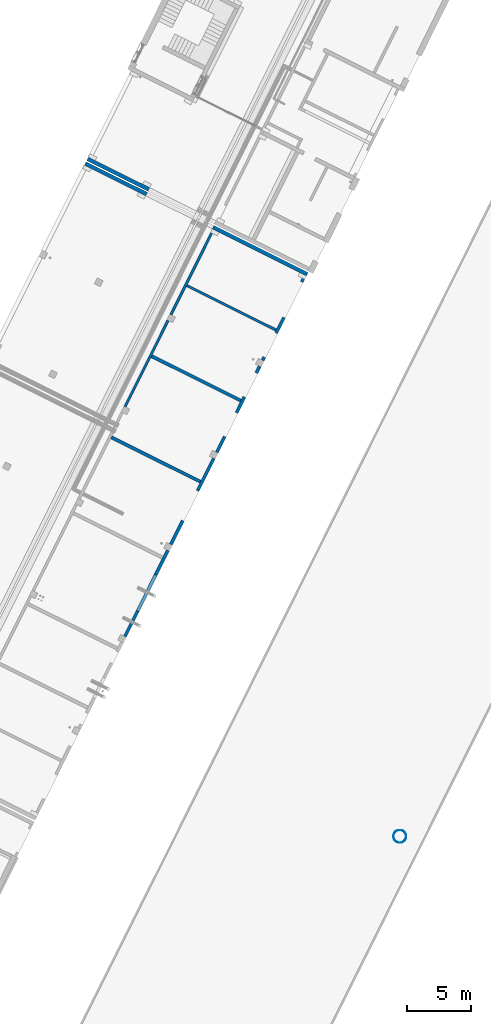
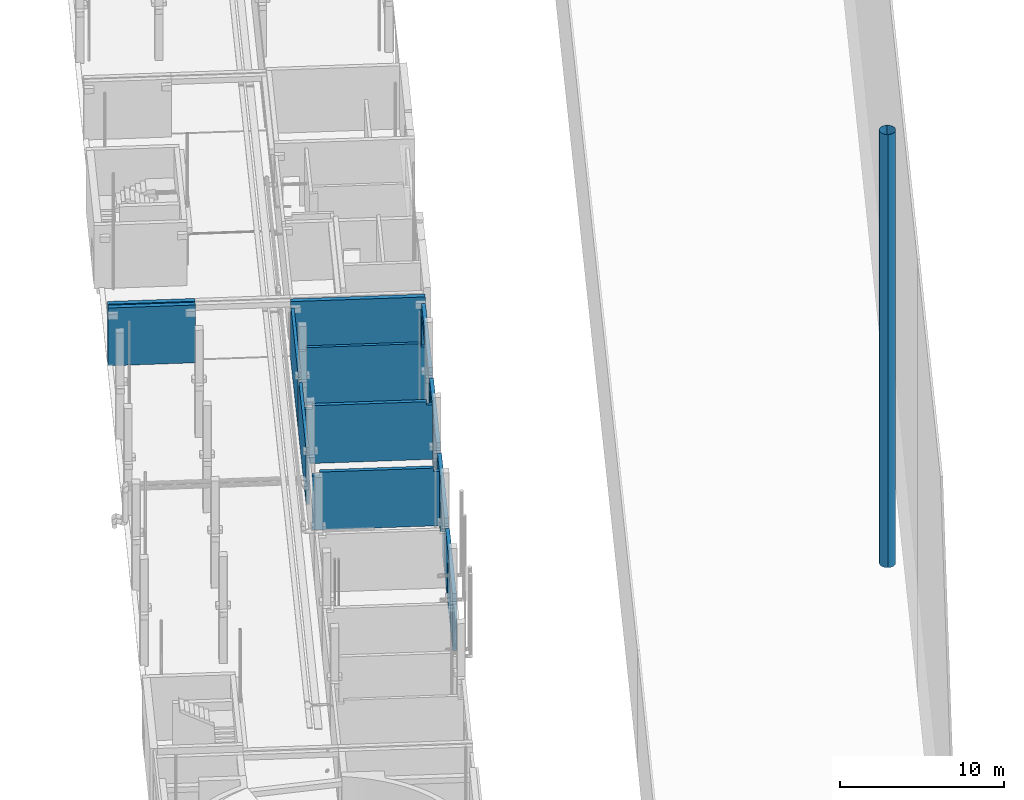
# One storey, part 11 of 91: 14 walls, 18 openings.
"""IFC2X3 building model written with IfcOpenShell, lengths in metres."""

from ifc_helpers import new_model, entity, si_unit, converted_unit, derived_unit, direction, frame, frame_2d, origin, origin_2d_with_axis, place, context, subcontext, project, spatial, polyline, circle_curve, parameter, trimmed, segment, composite_curve, rectangle, circle, outline, extrude, clip, halfspace, bounded_halfspace, material, layer, layer_set, layer_usage, type_object, element, save


model = new_model("IFC2X3")

# Units and contexts
model_context = context("Model", 3, precision=1e-05, world=origin(), true_north=direction((0.894925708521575, 0.446215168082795)))
context_of_model = context(None, 3, precision=1e-05, world=origin(), true_north=direction((0.894925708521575, 0.446215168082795)))
body_context = subcontext(model_context, "Body", "Model", "MODEL_VIEW")
ifc_project = project(units=[si_unit("LENGTHUNIT", "METRE"), si_unit("AREAUNIT", "SQUARE_METRE"), si_unit("VOLUMEUNIT", "CUBIC_METRE"), converted_unit("PLANEANGLEUNIT", "DEGREE", entity("IfcRatioMeasure", 0.0174532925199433), si_unit("PLANEANGLEUNIT", "RADIAN"), dimensions=[0, 0, 0, 0, 0, 0, 0]), si_unit("MASSUNIT", "GRAM", prefix="KILO"), si_unit("TIMEUNIT", "SECOND"), si_unit("FREQUENCYUNIT", "HERTZ"), si_unit("THERMODYNAMICTEMPERATUREUNIT", "DEGREE_CELSIUS"), derived_unit("THERMALTRANSMITTANCEUNIT", [(si_unit("MASSUNIT", "GRAM", prefix="KILO"), 1), (si_unit("THERMODYNAMICTEMPERATUREUNIT", "KELVIN"), -1), (si_unit("TIMEUNIT", "SECOND"), -3)]), derived_unit("VOLUMETRICFLOWRATEUNIT", [(si_unit("LENGTHUNIT", "METRE"), 3), (si_unit("TIMEUNIT", "SECOND"), -1)]), si_unit("ELECTRICCURRENTUNIT", "AMPERE"), si_unit("ELECTRICVOLTAGEUNIT", "VOLT"), si_unit("POWERUNIT", "WATT"), si_unit("FORCEUNIT", "NEWTON", prefix="KILO"), si_unit("ILLUMINANCEUNIT", "LUX"), si_unit("LUMINOUSFLUXUNIT", "LUMEN"), si_unit("LUMINOUSINTENSITYUNIT", "CANDELA"), si_unit("PRESSUREUNIT", "PASCAL")], contexts=[model_context, context_of_model])

# Site, building, storey
site_placement = place(None, frame((218.228324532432, 584.720189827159, 0.0), z_axis=(0.0, 0.0, 1.0), x_axis=(0.446215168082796, 0.894925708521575, 0.0)))
site = spatial("IfcSite", under=ifc_project, at=site_placement, Name="Default", CompositionType="ELEMENT")
building_placement = place(site_placement, origin())
building = spatial("IfcBuilding", under=site, at=building_placement, CompositionType="ELEMENT")
storey_placement = place(building_placement, origin())
storey = spatial("IfcBuildingStorey", under=building, at=storey_placement, Name="0 - Piano Terra", CompositionType="ELEMENT", Elevation=0.0)

# Wall, openings
ifc_material_1 = material(Name="Sabbia e Calcestruzzo")
ifc_layer_1 = layer(ifc_material_1, 0.2)
ifc_layer_set_1 = layer_set([ifc_layer_1], Name="Muro di base:Blocchetti - 20 cm")
ifc_layer_usage_1 = layer_usage(ifc_layer_set_1, "AXIS2", "NEGATIVE", 0.1)
wall_type_1 = type_object("IfcWallType", Name="Muro di base:Blocchetti - 20 cm", PredefinedType="STANDARD", material=ifc_layer_set_1)
wall_1_placement = place(storey_placement, frame((-28.5922204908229, -5.10107899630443, 0.0)))
wall_1 = element("IfcWallStandardCase", 1, at=wall_1_placement, inside=storey, type_object=wall_type_1, material=ifc_layer_usage_1, Name="Muro di base:Blocchetti - 20 cm", ObjectType="Muro di base:Blocchetti - 20 cm", context=body_context, shape_type="Clipping", body=[
    clip(clip(extrude(rectangle(XDim=7.50359922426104, YDim=0.2, at=frame_2d((3.75179961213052, 0.0), x_axis=(-1.0, 0.0))), origin(), (0.0, 0.0, 1.0), 4.03), halfspace(frame((7.50359922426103, 0.0, 3.63000000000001), z_axis=(0.79999999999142, 0.0, 0.60000000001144), x_axis=(0.0, 1.0, 0.0)), False)), halfspace(frame((0.299999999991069, 0.0, 4.03), z_axis=(-0.800000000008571, 0.0, 0.599999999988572), x_axis=(0.0, 1.0, 0.0)), False)),
])
opening_1_placement = place(wall_1_placement, origin())
element("IfcOpeningElement", 2, at=opening_1_placement, cuts=wall_1, Name="Muro di base:Blocchetti - 20 cm", ObjectType="Opening", context=body_context, shape_type="SweptSolid", body=[
    extrude(outline(polyline([(-0.226666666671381, -0.0800000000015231), (0.273333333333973, -0.080000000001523), (-0.046666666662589, 0.160000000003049), (-0.226666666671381, -0.0800000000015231)])), frame((7.30359922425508, 0.100000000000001, 3.76333333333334), z_axis=(0.0, -1.0, 0.0), x_axis=(-0.60000000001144, 0.0, 0.79999999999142)), (0.0, 0.0, 1.0), 0.2),
])
opening_2_placement = place(wall_1_placement, origin())
element("IfcOpeningElement", 3, at=opening_2_placement, cuts=wall_1, Name="Muro di base:Blocchetti - 20 cm", ObjectType="Opening", context=body_context, shape_type="SweptSolid", body=[
    extrude(outline(polyline([(-0.273333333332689, -0.0799999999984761), (0.22666666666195, -0.0799999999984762), (0.0466666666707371, 0.159999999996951), (-0.273333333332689, -0.0799999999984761)])), frame((0.199999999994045, 0.1, 3.76333333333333), z_axis=(0.0, -1.0, 0.0), x_axis=(-0.599999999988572, 0.0, -0.800000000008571)), (0.0, 0.0, 1.0), 0.2),
])

# Wall, opening
ifc_layer_usage_2 = layer_usage(ifc_layer_set_1, "AXIS2", "NEGATIVE", 0.1)
wall_2_placement = place(storey_placement, frame((-20.5886212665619, -5.10107899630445, 0.0)))
wall_2 = element("IfcWallStandardCase", 4, at=wall_2_placement, inside=storey, type_object=wall_type_1, material=ifc_layer_usage_2, Name="Muro di base:Blocchetti - 20 cm", ObjectType="Muro di base:Blocchetti - 20 cm", context=body_context, shape_type="Clipping", body=[
    clip(clip(clip(extrude(rectangle(XDim=7.4042495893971, YDim=0.2, at=frame_2d((3.70212479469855, 0.0), x_axis=(-1.0, 0.0))), origin(), (0.0, 0.0, 1.0), 4.03), bounded_halfspace(frame((7.10424958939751, 0.0999999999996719, 3.63), z_axis=(0.0, 0.0, -1.0), x_axis=(1.0, 0.0, 0.0)), True, frame((7.10424958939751, 0.0999999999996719, 3.63), z_axis=(0.0, 0.0, -1.0), x_axis=(1.0, 0.0, 0.0)), polyline([(0.0, 0.0), (0.299999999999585, 0.0), (0.299999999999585, 0.199999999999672), (0.0, 0.199999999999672), (0.0, 0.0)]))), bounded_halfspace(frame((7.10424958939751, -0.1, 3.63), z_axis=(-1.0, 0.0, 0.0), x_axis=(0.0, 0.0, -1.0)), True, frame((7.10424958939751, -0.1, 3.63), z_axis=(-1.0, 0.0, 0.0), x_axis=(0.0, 0.0, -1.0)), polyline([(0.0, 0.0), (-0.4, 0.0), (-0.4, -0.2), (0.0, -0.199999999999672), (0.0, 0.0)]))), halfspace(frame((0.299999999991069, 0.0, 4.03), z_axis=(-0.800000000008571, 0.0, 0.599999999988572), x_axis=(0.0, 1.0, 0.0)), False)),
])
opening_3_placement = place(wall_2_placement, origin())
element("IfcOpeningElement", 5, at=opening_3_placement, cuts=wall_2, Name="Muro di base:Blocchetti - 20 cm", ObjectType="Opening", context=body_context, shape_type="SweptSolid", body=[
    extrude(outline(polyline([(-0.273333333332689, -0.0799999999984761), (0.22666666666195, -0.0799999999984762), (0.0466666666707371, 0.159999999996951), (-0.273333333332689, -0.0799999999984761)])), frame((0.199999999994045, 0.1, 3.76333333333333), z_axis=(0.0, -1.0, 0.0), x_axis=(-0.599999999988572, 0.0, -0.800000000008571)), (0.0, 0.0, 1.0), 0.2),
])

# Wall
ifc_layer_usage_3 = layer_usage(ifc_layer_set_1, "AXIS2", "NEGATIVE", 0.1)
wall_3_placement = place(storey_placement, frame((-18.0117707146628, -12.9510789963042, 0.0), z_axis=(0.0, 0.0, 1.0), x_axis=(0.0, 1.0, 0.0)))
element("IfcWallStandardCase", 6, at=wall_3_placement, inside=storey, type_object=wall_type_1, material=ifc_layer_usage_3, Name="Muro di base:Blocchetti - 20 cm", ObjectType="Muro di base:Blocchetti - 20 cm", context=body_context, shape_type="Clipping", body=[
    clip(clip(clip(clip(extrude(rectangle(XDim=7.74999999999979, YDim=0.199999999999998, at=frame_2d((3.87499999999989, 0.0), x_axis=(-1.0, 0.0))), origin(), (0.0, 0.0, 1.0), 4.29), bounded_halfspace(frame((7.29999999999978, -0.0999999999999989, 4.03), z_axis=(-1.0, 0.0, 0.0), x_axis=(0.0, 1.0, 0.0)), True, frame((7.29999999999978, -0.0999999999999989, 4.03), z_axis=(-1.0, 0.0, 0.0), x_axis=(0.0, 1.0, 0.0)), polyline([(0.0, 0.0), (0.0, -0.260000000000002), (0.199999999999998, -0.260000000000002), (0.199999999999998, 0.0), (0.0, 0.0)]))), bounded_halfspace(frame((7.29999999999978, 0.0999999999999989, 4.03), z_axis=(0.0, 0.0, -1.0), x_axis=(0.0, 1.0, 0.0)), True, frame((7.29999999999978, 0.0999999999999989, 4.03), z_axis=(0.0, 0.0, -1.0), x_axis=(0.0, 1.0, 0.0)), polyline([(0.0, 0.0), (0.0, 0.450000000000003), (-0.199999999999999, 0.450000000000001), (-0.199999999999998, 0.0), (0.0, 0.0)]))), bounded_halfspace(frame((0.349999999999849, 0.100000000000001, 4.03), z_axis=(-1.0, 0.0, 0.0), x_axis=(0.0, 1.0, 0.0)), False, frame((0.349999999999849, 0.100000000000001, 4.03), z_axis=(-1.0, 0.0, 0.0), x_axis=(0.0, 1.0, 0.0)), polyline([(0.0, 0.0), (-0.2, 0.0), (-0.200000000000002, -0.260000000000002), (0.0, -0.260000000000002), (0.0, 0.0)]))), bounded_halfspace(frame((0.349999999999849, -0.0999999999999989, 4.03), z_axis=(0.0, 0.0, 1.0), x_axis=(0.0, 1.0, 0.0)), False, frame((0.349999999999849, -0.0999999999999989, 4.03), z_axis=(0.0, 0.0, 1.0), x_axis=(0.0, 1.0, 0.0)), polyline([(0.0, 0.0), (0.2, 0.0), (0.199999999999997, 0.34999999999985), (0.0, 0.349999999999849), (0.0, 0.0)]))),
])

# Wall, openings
ifc_layer_2 = layer(ifc_material_1, 0.25)
ifc_layer_set_2 = layer_set([ifc_layer_2], Name="Muro di base:Blocchetti - 25 cm")
ifc_layer_usage_4 = layer_usage(ifc_layer_set_2, "AXIS2", "NEGATIVE", 0.125)
wall_type_2 = type_object("IfcWallType", Name="Muro di base:Blocchetti - 25 cm", PredefinedType="STANDARD", material=ifc_layer_set_2)
wall_4_placement = place(storey_placement, frame((-13.1843716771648, -13.0760789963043, 0.0), z_axis=(0.0, 0.0, 1.0), x_axis=(-1.0, 0.0, 0.0)))
wall_4 = element("IfcWallStandardCase", 7, at=wall_4_placement, inside=storey, type_object=wall_type_2, material=ifc_layer_usage_4, Name="Muro di base:Blocchetti - 25 cm", ObjectType="Muro di base:Blocchetti - 25 cm", context=body_context, shape_type="Clipping", body=[
    clip(clip(extrude(rectangle(XDim=7.39424958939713, YDim=0.249999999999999, at=frame_2d((3.69712479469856, 0.0), x_axis=(-1.0, 0.0))), origin(), (0.0, 0.0, 1.0), 4.03), halfspace(frame((7.39424958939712, 0.0, 3.63), z_axis=(0.800000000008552, 0.0, 0.599999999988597), x_axis=(0.0, 1.0, 0.0)), False)), halfspace(frame((0.299999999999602, 0.0, 4.02999999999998), z_axis=(-0.800000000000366, 0.0, 0.599999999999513), x_axis=(0.0, 1.0, 0.0)), False)),
])
opening_4_placement = place(wall_4_placement, frame((7.117399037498, 1.39900000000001, 0.0)))
element("IfcOpeningElement", 8, at=opening_4_placement, cuts=wall_4, Name="Muro di base:Blocchetti - 25 cm", ObjectType="Opening", context=body_context, shape_type="SweptSolid", body=[
    extrude(rectangle(XDim=3.25, YDim=2.08, at=frame_2d((2.22044604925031e-15, 0.0), x_axis=(0.0, 1.0))), frame((-1.04, -3.04800000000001, 1.625), z_axis=(0.0, 1.0, 0.0), x_axis=(1.0, 0.0, 0.0)), (0.0, 0.0, 1.0), 3.048),
])
opening_5_placement = place(wall_4_placement, frame((3.67, 1.64900000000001, 0.0)))
element("IfcOpeningElement", 9, at=opening_5_placement, cuts=wall_4, Name="Muro di base:Blocchetti - 25 cm", ObjectType="Opening", context=body_context, shape_type="SweptSolid", body=[
    extrude(rectangle(XDim=3.25, YDim=3.1, at=frame_2d((0.0, -1.11022302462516e-15), x_axis=(1.0, 0.0))), frame((-1.55, -3.04800000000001, 1.625), z_axis=(0.0, 1.0, 0.0), x_axis=(0.0, 0.0, -1.0)), (0.0, 0.0, 1.0), 3.048),
])
opening_6_placement = place(wall_4_placement, origin())
element("IfcOpeningElement", 10, at=opening_6_placement, cuts=wall_4, Name="Muro di base:Blocchetti - 25 cm", ObjectType="Opening", context=body_context, shape_type="SweptSolid", body=[
    extrude(outline(polyline([(-0.226666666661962, -0.0799999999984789), (0.273333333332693, -0.0799999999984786), (-0.0466666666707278, 0.15999999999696), (-0.226666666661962, -0.0799999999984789)])), frame((7.19424958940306, 0.124999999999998, 3.76333333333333), z_axis=(0.0, -1.0, 0.0), x_axis=(-0.599999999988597, 0.0, 0.800000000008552)), (0.0, 0.0, 1.0), 0.25),
])
opening_7_placement = place(wall_4_placement, origin())
element("IfcOpeningElement", 11, at=opening_7_placement, cuts=wall_4, Name="Muro di base:Blocchetti - 25 cm", ObjectType="Opening", context=body_context, shape_type="SweptSolid", body=[
    extrude(outline(polyline([(-0.273333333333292, -0.0799999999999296), (0.226666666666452, -0.0799999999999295), (0.0466666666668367, 0.159999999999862), (-0.273333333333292, -0.0799999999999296)])), frame((0.199999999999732, 0.125, 3.76333333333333), z_axis=(0.0, -1.0, 0.0), x_axis=(-0.599999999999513, 0.0, -0.800000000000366)), (0.0, 0.0, 1.0), 0.25),
])

ifc_layer_usage_5 = layer_usage(ifc_layer_set_2, "AXIS2", "NEGATIVE", 0.125)
wall_5_placement = place(storey_placement, frame((-21.0986212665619, -13.0760789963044, 0.0), z_axis=(0.0, 0.0, 1.0), x_axis=(-1.0, 0.0, 0.0)))
wall_5 = element("IfcWallStandardCase", 12, at=wall_5_placement, inside=storey, type_object=wall_type_2, material=ifc_layer_usage_5, Name="Muro di base:Blocchetti - 25 cm", ObjectType="Muro di base:Blocchetti - 25 cm", context=body_context, shape_type="Clipping", body=[
    clip(clip(extrude(rectangle(XDim=7.48359922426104, YDim=0.249999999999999, at=frame_2d((3.74179961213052, 0.0), x_axis=(-1.0, 0.0))), origin(), (0.0, 0.0, 1.0), 4.03000000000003), halfspace(frame((0.300000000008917, 0.0, 4.03), z_axis=(-0.799999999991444, 0.0, 0.600000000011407), x_axis=(0.0, 1.0, 0.0)), False)), halfspace(frame((7.48359922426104, 0.0, 3.63), z_axis=(0.800000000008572, 0.0, 0.599999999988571), x_axis=(0.0, 1.0, 0.0)), False)),
])
opening_8_placement = place(wall_5_placement, frame((6.11641574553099, 1.64900000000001, 0.0)))
element("IfcOpeningElement", 13, at=opening_8_placement, cuts=wall_5, Name="Muro di base:Blocchetti - 25 cm", ObjectType="Opening", context=body_context, shape_type="SweptSolid", body=[
    extrude(rectangle(XDim=3.25, YDim=2.08, at=frame_2d((0.0, -2.1094237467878e-15), x_axis=(1.0, 0.0))), frame((-1.04, -3.04800000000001, 1.625), z_axis=(0.0, 1.0, 0.0), x_axis=(0.0, 0.0, -1.0)), (0.0, 0.0, 1.0), 3.048),
])
opening_9_placement = place(wall_5_placement, frame((2.66641574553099, 1.39900000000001, 0.0)))
element("IfcOpeningElement", 14, at=opening_9_placement, cuts=wall_5, Name="Muro di base:Blocchetti - 25 cm", ObjectType="Opening", context=body_context, shape_type="SweptSolid", body=[
    extrude(rectangle(XDim=3.25, YDim=2.08, at=frame_2d((2.1094237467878e-15, 0.0), x_axis=(0.0, 1.0))), frame((-1.04, -3.04800000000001, 1.625), z_axis=(0.0, 1.0, 0.0), x_axis=(1.0, 0.0, 0.0)), (0.0, 0.0, 1.0), 3.048),
])
opening_10_placement = place(wall_5_placement, origin())
element("IfcOpeningElement", 15, at=opening_10_placement, cuts=wall_5, Name="Muro di base:Blocchetti - 25 cm", ObjectType="Opening", context=body_context, shape_type="SweptSolid", body=[
    extrude(outline(polyline([(-0.226666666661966, -0.0799999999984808), (0.27333333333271, -0.0799999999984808), (-0.0466666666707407, 0.159999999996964), (-0.226666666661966, -0.0799999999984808)])), frame((7.28359922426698, 0.125, 3.76333333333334), z_axis=(0.0, -1.0, 0.0), x_axis=(-0.599999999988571, 0.0, 0.800000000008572)), (0.0, 0.0, 1.0), 0.25),
])
opening_11_placement = place(wall_5_placement, origin())
element("IfcOpeningElement", 16, at=opening_11_placement, cuts=wall_5, Name="Muro di base:Blocchetti - 25 cm", ObjectType="Opening", context=body_context, shape_type="SweptSolid", body=[
    extrude(outline(polyline([(-0.27333333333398, -0.0800000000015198), (0.226666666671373, -0.0800000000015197), (0.0466666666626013, 0.160000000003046), (-0.27333333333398, -0.0800000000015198)])), frame((0.200000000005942, 0.125, 3.76333333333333), z_axis=(0.0, -1.0, 0.0), x_axis=(-0.600000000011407, 0.0, -0.799999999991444)), (0.0, 0.0, 1.0), 0.25),
])

ifc_layer_usage_6 = layer_usage(ifc_layer_set_2, "AXIS2", "NEGATIVE", 0.125)
wall_6_placement = place(storey_placement, frame((-29.1022204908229, -13.0760789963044, 0.0), z_axis=(0.0, 0.0, 1.0), x_axis=(-1.0, 0.0, 0.0)))
wall_6 = element("IfcWallStandardCase", 17, at=wall_6_placement, inside=storey, type_object=wall_type_2, material=ifc_layer_usage_6, Name="Muro di base:Blocchetti - 25 cm", ObjectType="Muro di base:Blocchetti - 25 cm", context=body_context, shape_type="Clipping", body=[
    clip(clip(extrude(rectangle(XDim=7.48563159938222, YDim=0.249999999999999, at=frame_2d((3.74281579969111, 0.0), x_axis=(-1.0, 0.0))), origin(), (0.0, 0.0, 1.0), 4.03), halfspace(frame((7.48563159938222, 0.0, 3.63), z_axis=(0.800000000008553, 0.0, 0.599999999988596), x_axis=(0.0, 1.0, 0.0)), False)), halfspace(frame((0.300000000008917, 0.0, 4.03), z_axis=(-0.799999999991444, 0.0, 0.600000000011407), x_axis=(0.0, 1.0, 0.0)), False)),
])
opening_12_placement = place(wall_6_placement, frame((5.42433671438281, 1.64900000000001, 0.0)))
element("IfcOpeningElement", 18, at=opening_12_placement, cuts=wall_6, Name="Muro di base:Blocchetti - 25 cm", ObjectType="Opening", context=body_context, shape_type="SweptSolid", body=[
    extrude(rectangle(XDim=2.35, YDim=2.6, at=origin_2d_with_axis()), frame((-1.3, -3.04800000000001, 1.175), z_axis=(0.0, 1.0, 0.0), x_axis=(0.0, 0.0, -1.0)), (0.0, 0.0, 1.0), 3.048),
])
opening_13_placement = place(wall_6_placement, origin())
element("IfcOpeningElement", 19, at=opening_13_placement, cuts=wall_6, Name="Muro di base:Blocchetti - 25 cm", ObjectType="Opening", context=body_context, shape_type="SweptSolid", body=[
    extrude(outline(polyline([(-0.226666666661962, -0.0799999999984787), (0.273333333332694, -0.0799999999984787), (-0.0466666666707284, 0.15999999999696), (-0.226666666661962, -0.0799999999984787)])), frame((7.28563159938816, 0.124999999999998, 3.76333333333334), z_axis=(0.0, -1.0, 0.0), x_axis=(-0.599999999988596, 0.0, 0.800000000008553)), (0.0, 0.0, 1.0), 0.25),
])
opening_14_placement = place(wall_6_placement, origin())
element("IfcOpeningElement", 20, at=opening_14_placement, cuts=wall_6, Name="Muro di base:Blocchetti - 25 cm", ObjectType="Opening", context=body_context, shape_type="SweptSolid", body=[
    extrude(outline(polyline([(-0.273333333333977, -0.0800000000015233), (0.226666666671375, -0.0800000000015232), (0.0466666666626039, 0.160000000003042), (-0.273333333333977, -0.0800000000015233)])), frame((0.200000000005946, 0.125, 3.76333333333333), z_axis=(0.0, -1.0, 0.0), x_axis=(-0.600000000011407, 0.0, -0.799999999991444)), (0.0, 0.0, 1.0), 0.25),
])

ifc_layer_usage_7 = layer_usage(ifc_layer_set_2, "AXIS2", "NEGATIVE", 0.125)
wall_7_placement = place(storey_placement, frame((-37.1078520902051, -13.0760789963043, 0.0), z_axis=(0.0, 0.0, 1.0), x_axis=(-1.0, 0.0, 0.0)))
wall_7 = element("IfcWallStandardCase", 21, at=wall_7_placement, inside=storey, type_object=wall_type_2, material=ifc_layer_usage_7, Name="Muro di base:Blocchetti - 25 cm", ObjectType="Muro di base:Blocchetti - 25 cm", context=body_context, shape_type="Clipping", body=[
    clip(clip(extrude(rectangle(XDim=7.48281382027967, YDim=0.249999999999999, at=frame_2d((3.74140691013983, 0.0), x_axis=(-1.0, 0.0))), origin(), (0.0, 0.0, 1.0), 4.03000000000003), halfspace(frame((7.48281382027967, 0.0, 3.63), z_axis=(0.800000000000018, 0.0, 0.599999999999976), x_axis=(0.0, 1.0, 0.0)), False)), halfspace(frame((0.300000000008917, 0.0, 4.03), z_axis=(-0.799999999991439, 0.0, 0.600000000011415), x_axis=(0.0, 1.0, 0.0)), False)),
])
opening_15_placement = place(wall_7_placement, frame((5.285, 0.125000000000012, 0.171450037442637)))
element("IfcOpeningElement", 22, at=opening_15_placement, cuts=wall_7, Name="Muro di base:Blocchetti - 25 cm", ObjectType="Opening", context=body_context, shape_type="SweptSolid", body=[
    extrude(rectangle(XDim=2.8979255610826, YDim=3.15, at=frame_2d((0.0, -4.32986979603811e-15), x_axis=(1.0, 0.0))), frame((-1.575, -0.250000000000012, 1.4489627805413), z_axis=(0.0, 1.0, 0.0), x_axis=(0.0, 0.0, -1.0)), (0.0, 0.0, 1.0), 0.249999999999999),
])
opening_16_placement = place(wall_7_placement, origin())
element("IfcOpeningElement", 23, at=opening_16_placement, cuts=wall_7, Name="Muro di base:Blocchetti - 25 cm", ObjectType="Opening", context=body_context, shape_type="SweptSolid", body=[
    extrude(circle(Radius=0.125, at=frame_2d((-8.66293703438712e-15, -9.74580416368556e-15), x_axis=(1.0, 0.0))), frame((6.24098145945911, 0.125, 2.89999999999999), z_axis=(0.0, -1.0, 0.0), x_axis=(-1.0, 0.0, 0.0)), (0.0, 0.0, 1.0), 0.25),
])
opening_17_placement = place(wall_7_placement, origin())
element("IfcOpeningElement", 24, at=opening_17_placement, cuts=wall_7, Name="Muro di base:Blocchetti - 25 cm", ObjectType="Opening", context=body_context, shape_type="SweptSolid", body=[
    extrude(outline(polyline([(-0.22666666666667, -0.0799999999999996), (0.273333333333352, -0.0799999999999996), (-0.0466666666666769, 0.160000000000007), (-0.22666666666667, -0.0799999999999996)])), frame((7.28281382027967, 0.124999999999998, 3.76333333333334), z_axis=(0.0, -1.0, 0.0), x_axis=(-0.599999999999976, 0.0, 0.800000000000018)), (0.0, 0.0, 1.0), 0.25),
])
opening_18_placement = place(wall_7_placement, origin())
element("IfcOpeningElement", 25, at=opening_18_placement, cuts=wall_7, Name="Muro di base:Blocchetti - 25 cm", ObjectType="Opening", context=body_context, shape_type="SweptSolid", body=[
    extrude(outline(polyline([(-0.273333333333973, -0.0800000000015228), (0.226666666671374, -0.0800000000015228), (0.0466666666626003, 0.160000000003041), (-0.273333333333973, -0.0800000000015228)])), frame((0.200000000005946, 0.125, 3.76333333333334), z_axis=(0.0, -1.0, 0.0), x_axis=(-0.600000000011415, 0.0, -0.799999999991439)), (0.0, 0.0, 1.0), 0.25),
])

# Walls
ifc_layer_usage_8 = layer_usage(ifc_layer_set_2, "AXIS2", "NEGATIVE", 0.125)
wall_8_placement = place(storey_placement, frame((-31.2015572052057, -12.9510789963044, 0.0), z_axis=(0.0, 0.0, 1.0), x_axis=(0.0, 1.0, 0.0)))
element("IfcWallStandardCase", 26, at=wall_8_placement, inside=storey, type_object=wall_type_2, material=ifc_layer_usage_8, Name="Muro di base:Blocchetti - 25 cm", ObjectType="Muro di base:Blocchetti - 25 cm", context=body_context, shape_type="Clipping", body=[
    clip(clip(clip(clip(extrude(rectangle(XDim=7.74999999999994, YDim=0.250000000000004, at=frame_2d((3.87499999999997, 0.0), x_axis=(-1.0, 0.0))), origin(), (0.0, 0.0, 1.0), 4.29), bounded_halfspace(frame((0.350000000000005, 0.125000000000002, 4.03), z_axis=(-1.0, 0.0, 0.0), x_axis=(0.0, 1.0, 0.0)), False, frame((0.350000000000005, 0.125000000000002, 4.03), z_axis=(-1.0, 0.0, 0.0), x_axis=(0.0, 1.0, 0.0)), polyline([(0.0, 0.0), (-0.25, 0.0), (-0.25, -0.260000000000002), (0.0, -0.260000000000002), (0.0, 0.0)]))), bounded_halfspace(frame((0.350000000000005, -0.124999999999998, 4.03), z_axis=(0.0, 0.0, 1.0), x_axis=(0.0, 1.0, 0.0)), False, frame((0.350000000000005, -0.124999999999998, 4.03), z_axis=(0.0, 0.0, 1.0), x_axis=(0.0, 1.0, 0.0)), polyline([(0.0, 0.0), (0.25, 0.0), (0.249999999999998, 0.350000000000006), (0.0, 0.350000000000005), (0.0, 0.0)]))), bounded_halfspace(frame((7.29999999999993, -0.124999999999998, 4.03), z_axis=(-1.0, 0.0, 0.0), x_axis=(0.0, 1.0, 0.0)), True, frame((7.29999999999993, -0.124999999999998, 4.03), z_axis=(-1.0, 0.0, 0.0), x_axis=(0.0, 1.0, 0.0)), polyline([(0.0, 0.0), (0.0, -0.260000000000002), (0.25, -0.260000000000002), (0.25, 0.0), (0.0, 0.0)]))), bounded_halfspace(frame((7.29999999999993, 0.125000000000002, 4.03), z_axis=(0.0, 0.0, -1.0), x_axis=(0.0, 1.0, 0.0)), True, frame((7.29999999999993, 0.125000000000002, 4.03), z_axis=(0.0, 0.0, -1.0), x_axis=(0.0, 1.0, 0.0)), polyline([(0.0, 0.0), (0.0, 0.450000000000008), (-0.249999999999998, 0.450000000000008), (-0.25, 0.0), (0.0, 0.0)]))),
])
ifc_layer_usage_9 = layer_usage(ifc_layer_set_2, "AXIS2", "NEGATIVE", 0.125)
wall_9_placement = place(storey_placement, frame((-24.1500370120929, -12.9510789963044, 0.0), z_axis=(0.0, 0.0, 1.0), x_axis=(0.0, 1.0, 0.0)))
element("IfcWallStandardCase", 27, at=wall_9_placement, inside=storey, type_object=wall_type_2, material=ifc_layer_usage_9, Name="Muro di base:Blocchetti - 25 cm", ObjectType="Muro di base:Blocchetti - 25 cm", context=body_context, shape_type="Clipping", body=[
    clip(clip(clip(clip(extrude(rectangle(XDim=7.74999999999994, YDim=0.250000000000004, at=frame_2d((3.87499999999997, 0.0), x_axis=(-1.0, 0.0))), origin(), (0.0, 0.0, 1.0), 4.29), bounded_halfspace(frame((0.350000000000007, 0.125000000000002, 4.03), z_axis=(-1.0, 0.0, 0.0), x_axis=(0.0, 1.0, 0.0)), False, frame((0.350000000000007, 0.125000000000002, 4.03), z_axis=(-1.0, 0.0, 0.0), x_axis=(0.0, 1.0, 0.0)), polyline([(0.0, 0.0), (-0.25, 0.0), (-0.25, -0.260000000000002), (0.0, -0.260000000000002), (0.0, 0.0)]))), bounded_halfspace(frame((0.350000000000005, -0.124999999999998, 4.03), z_axis=(0.0, 0.0, 1.0), x_axis=(0.0, 1.0, 0.0)), False, frame((0.350000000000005, -0.124999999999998, 4.03), z_axis=(0.0, 0.0, 1.0), x_axis=(0.0, 1.0, 0.0)), polyline([(0.0, 0.0), (0.25, 0.0), (0.249999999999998, 0.350000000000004), (0.0, 0.350000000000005), (0.0, 0.0)]))), bounded_halfspace(frame((7.29999999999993, -0.124999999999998, 4.03), z_axis=(-1.0, 0.0, 0.0), x_axis=(0.0, 1.0, 0.0)), True, frame((7.29999999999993, -0.124999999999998, 4.03), z_axis=(-1.0, 0.0, 0.0), x_axis=(0.0, 1.0, 0.0)), polyline([(0.0, 0.0), (0.0, -0.260000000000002), (0.25, -0.260000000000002), (0.25, 0.0), (0.0, 0.0)]))), bounded_halfspace(frame((7.29999999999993, 0.125000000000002, 4.03), z_axis=(0.0, 0.0, -1.0), x_axis=(0.0, 1.0, 0.0)), True, frame((7.29999999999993, 0.125000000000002, 4.03), z_axis=(0.0, 0.0, -1.0), x_axis=(0.0, 1.0, 0.0)), polyline([(0.0, 0.0), (0.0, 0.450000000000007), (-0.249999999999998, 0.450000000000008), (-0.25, 0.0), (0.0, 0.0)]))),
])
ifc_material_2 = material(Name="Alluminio")
ifc_layer_3 = layer(ifc_material_2, 0.01)
ifc_layer_set_3 = layer_set([ifc_layer_3], Name="Muro di base:Lamierino")
ifc_layer_usage_10 = layer_usage(ifc_layer_set_3, "AXIS2", "POSITIVE", -0.00500000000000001)
wall_type_3 = type_object("IfcWallType", Name="Muro di base:Lamierino", PredefinedType="STANDARD", material=ifc_layer_set_3)
wall_10_placement = place(storey_placement, frame((-48.4836964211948, -39.1615045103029, 8.45)))
element("IfcWallStandardCase", 28, at=wall_10_placement, inside=storey, type_object=wall_type_3, material=ifc_layer_usage_10, Name="Muro di base:Lamierino", ObjectType="Muro di base:Lamierino", context=body_context, shape_type="Clipping", body=[
    clip(extrude(outline(composite_curve([segment(trimmed(circle_curve(frame_2d((-0.494999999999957, 0.0), x_axis=(1.0, 0.0)), 0.499999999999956), [parameter(180.0)], [parameter(0.0)], True, "PARAMETER"), True, "CONTINUOUS"), segment(polyline([(0.00499999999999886, 0.0), (-0.00499999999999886, 0.0)]), True, "CONTINUOUS"), segment(trimmed(circle_curve(frame_2d((-0.494999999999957, 0.0), x_axis=(1.0, 0.0)), 0.489999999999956), [parameter(180.0)], [parameter(0.0)], True, "PARAMETER"), False, "CONTINUOUS"), segment(polyline([(-0.984999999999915, 0.0), (-0.994999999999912, 0.0)]), True, "CONTINUOUS")], self_intersect=False)), origin(), (0.0, 0.0, 1.0), 32.15), bounded_halfspace(frame((0.00499999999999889, 0.0, 0.00499999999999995)), True, frame((0.00499999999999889, 0.0, 0.00499999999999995)), composite_curve([segment(polyline([(0.0, 0.0), (-0.00304799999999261, 0.0)]), True, "CONTINUOUS"), segment(trimmed(circle_curve(frame_2d((-0.152399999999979, 0.0), x_axis=(1.0, 0.0)), 0.489999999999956), [parameter(180.0)], [parameter(0.0)], True, "PARAMETER"), False, "CONTINUOUS"), segment(polyline([(-0.301751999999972, 0.0), (-0.304799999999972, 0.0)]), True, "CONTINUOUS"), segment(trimmed(circle_curve(frame_2d((-0.152399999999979, 0.0), x_axis=(1.0, 0.0)), 0.499999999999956), [parameter(180.0)], [parameter(0.0)], True, "PARAMETER"), True, "CONTINUOUS")], self_intersect=False))),
])
ifc_layer_usage_11 = layer_usage(ifc_layer_set_3, "AXIS2", "POSITIVE", -0.00500000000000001)
wall_11_placement = place(storey_placement, frame((-49.4736964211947, -39.1615045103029, 8.45)))
element("IfcWallStandardCase", 29, at=wall_11_placement, inside=storey, type_object=wall_type_3, material=ifc_layer_usage_11, Name="Muro di base:Lamierino", ObjectType="Muro di base:Lamierino", context=body_context, shape_type="Clipping", body=[
    clip(extrude(outline(composite_curve([segment(trimmed(circle_curve(frame_2d((0.494999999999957, 0.0), x_axis=(1.0, 0.0)), 0.499999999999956), [parameter(0.0)], [parameter(180.0)], True, "PARAMETER"), True, "CONTINUOUS"), segment(polyline([(-0.00499999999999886, 0.0), (0.00499999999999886, 0.0)]), True, "CONTINUOUS"), segment(trimmed(circle_curve(frame_2d((0.494999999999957, 0.0), x_axis=(1.0, 0.0)), 0.489999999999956), [parameter(0.0)], [parameter(180.0)], True, "PARAMETER"), False, "CONTINUOUS"), segment(polyline([(0.984999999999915, 0.0), (0.994999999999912, 0.0)]), True, "CONTINUOUS")], self_intersect=False)), origin(), (0.0, 0.0, 1.0), 32.15), bounded_halfspace(frame((-0.00499999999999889, 0.0, 0.00499999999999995)), True, frame((-0.00499999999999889, 0.0, 0.00499999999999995)), composite_curve([segment(polyline([(0.0, 0.0), (0.00304799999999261, 0.0)]), True, "CONTINUOUS"), segment(trimmed(circle_curve(frame_2d((0.152399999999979, 0.0), x_axis=(1.0, 0.0)), 0.489999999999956), [parameter(0.0)], [parameter(180.0)], True, "PARAMETER"), False, "CONTINUOUS"), segment(polyline([(0.301751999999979, 0.0), (0.304799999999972, 0.0)]), True, "CONTINUOUS"), segment(trimmed(circle_curve(frame_2d((0.152399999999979, 0.0), x_axis=(1.0, 0.0)), 0.499999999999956), [parameter(0.0)], [parameter(180.0)], True, "PARAMETER"), True, "CONTINUOUS")], self_intersect=False))),
])
ifc_material_3 = material(Name="Default - Calcestruzzo")
wall_type_4 = type_object("IfcWallType", Name="Setto C.a.:Setto C.a.", PredefinedType="NOTDEFINED", material=ifc_material_3)
wall_12_placement = place(storey_placement, frame((-13.1843716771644, 0.79892100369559, 0.0), z_axis=(0.0, 0.0, 1.0), x_axis=(0.0, 1.0, 0.0)))
element("IfcWall", 30, at=wall_12_placement, inside=storey, type_object=wall_type_4, material=ifc_material_3, Name="Setto C.a.:Setto C.a.", ObjectType="Setto C.a.:Setto C.a.", context=body_context, shape_type="SweptSolid", body=[
    extrude(rectangle(XDim=0.299999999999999, YDim=5.32000000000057, at=frame_2d((0.0, -4.44089209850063e-16), x_axis=(1.0, 0.0))), frame((2.66000000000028, -0.150000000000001, 0.0), z_axis=(0.0, 0.0, 1.0), x_axis=(0.0, 1.0, 0.0)), (0.0, 0.0, 1.0), 4.29),
])
ifc_material_4 = material(Name="Calcestruzzo")
wall_type_5 = type_object("IfcWallType", Name="Setti C.a.:Setti C.a.", PredefinedType="NOTDEFINED", material=ifc_material_4)
wall_13_placement = place(storey_placement, frame((-12.7843716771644, 0.798921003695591, 0.0), z_axis=(0.0, 0.0, 1.0), x_axis=(0.0, 1.0, 0.0)))
element("IfcWall", 31, at=wall_13_placement, inside=storey, type_object=wall_type_5, material=ifc_material_4, Name="Setti C.a.:Setti C.a.", ObjectType="Setti C.a.:Setti C.a.", context=body_context, shape_type="SweptSolid", body=[
    extrude(rectangle(XDim=5.32000000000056, YDim=0.299999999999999, at=frame_2d((0.0, 1.08246744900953e-15), x_axis=(1.0, 0.0))), frame((2.66000000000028, -0.150000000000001, 0.0)), (0.0, 0.0, 1.0), 4.29),
])
wall_type_6 = type_object("IfcWallType", Name="Setto C.a.1:Setto C.a.", PredefinedType="NOTDEFINED", material=ifc_material_3)
wall_14_placement = place(storey_placement, frame((-13.1843716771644, -13.2010789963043, 0.0), z_axis=(0.0, 0.0, 1.0), x_axis=(0.0, 1.0, 0.0)))
element("IfcWall", 32, at=wall_14_placement, inside=storey, type_object=wall_type_6, material=ifc_material_3, Name="Setto C.a.1:Setto C.a.", ObjectType="Setto C.a.1:Setto C.a.", context=body_context, shape_type="SweptSolid", body=[
    extrude(rectangle(XDim=0.299999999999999, YDim=8.19999999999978, at=frame_2d((0.0, -1.33226762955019e-15), x_axis=(1.0, 0.0))), frame((4.09999999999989, -0.150000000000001, 0.0), z_axis=(0.0, 0.0, 1.0), x_axis=(0.0, 1.0, 0.0)), (0.0, 0.0, 1.0), 4.29),
])

save(model, "model.ifc")
